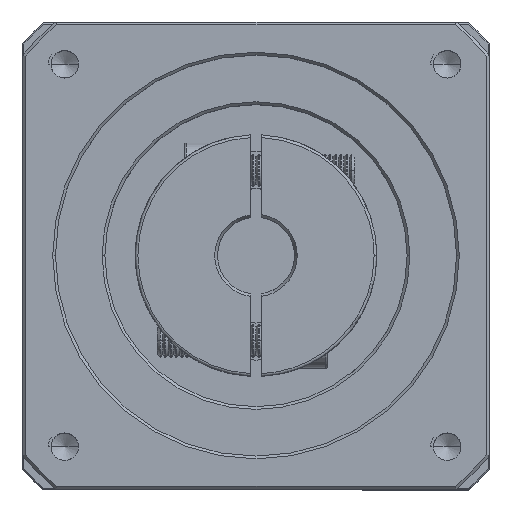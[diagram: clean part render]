
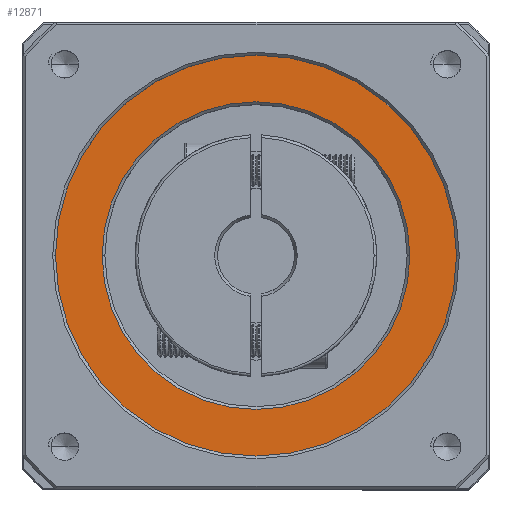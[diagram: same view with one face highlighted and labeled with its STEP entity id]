
A CAD part, top view. The second image highlights one B-rep face of the part: STEP entity #12871.
In plain terms, the highlighted planar face has unit normal (0, 0, 1).
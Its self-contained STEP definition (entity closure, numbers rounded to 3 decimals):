
#365 = DIRECTION ( 'NONE',  ( 0., 0., -1. ) ) ;
#489 = EDGE_CURVE ( 'NONE', #51546, #47815, #106639, .T. ) ;
#842 = VERTEX_POINT ( 'NONE', #104078 ) ;
#4211 = ORIENTED_EDGE ( 'NONE', *, *, #106091, .T. ) ;
#4645 = CIRCLE ( 'NONE', #14451, 36.5 ) ;
#9943 = AXIS2_PLACEMENT_3D ( 'NONE', #39185, #365, #115499 ) ;
#10489 = CARTESIAN_POINT ( 'NONE',  ( -11.569, 50.545, 5.935 ) ) ;
#10643 = CARTESIAN_POINT ( 'NONE',  ( -67.569, 50.545, 5.935 ) ) ;
#10933 = FACE_OUTER_BOUND ( 'NONE', #106952, .T. ) ;
#11692 = DIRECTION ( 'NONE',  ( 1., 0., 0. ) ) ;
#12871 = ADVANCED_FACE ( 'NONE', ( #10933, #102010 ), #102917, .T. ) ;
#13289 = ORIENTED_EDGE ( 'NONE', *, *, #27173, .T. ) ;
#13605 = AXIS2_PLACEMENT_3D ( 'NONE', #58894, #88877, #11692 ) ;
#14451 = AXIS2_PLACEMENT_3D ( 'NONE', #80521, #41786, #23366 ) ;
#23366 = DIRECTION ( 'NONE',  ( 1., 0., 0. ) ) ;
#25373 = DIRECTION ( 'NONE',  ( 1., 0., 0. ) ) ;
#27173 = EDGE_CURVE ( 'NONE', #842, #80309, #34567, .T. ) ;
#34567 = CIRCLE ( 'NONE', #77400, 36.5 ) ;
#38019 = CIRCLE ( 'NONE', #13605, 28. ) ;
#39185 = CARTESIAN_POINT ( 'NONE',  ( -39.569, 50.545, 5.935 ) ) ;
#41786 = DIRECTION ( 'NONE',  ( 0., 0., 1. ) ) ;
#45416 = DIRECTION ( 'NONE',  ( 0., 0., 1. ) ) ;
#46010 = EDGE_LOOP ( 'NONE', ( #94975, #112804 ) ) ;
#47316 = CARTESIAN_POINT ( 'NONE',  ( -39.569, 50.545, 5.935 ) ) ;
#47815 = VERTEX_POINT ( 'NONE', #10643 ) ;
#51024 = DIRECTION ( 'NONE',  ( 1., 0., 0. ) ) ;
#51546 = VERTEX_POINT ( 'NONE', #10489 ) ;
#58894 = CARTESIAN_POINT ( 'NONE',  ( -39.569, 50.545, 5.935 ) ) ;
#77228 = EDGE_CURVE ( 'NONE', #47815, #51546, #38019, .T. ) ;
#77400 = AXIS2_PLACEMENT_3D ( 'NONE', #47316, #106883, #51024 ) ;
#80309 = VERTEX_POINT ( 'NONE', #107421 ) ;
#80521 = CARTESIAN_POINT ( 'NONE',  ( -39.569, 50.545, 5.935 ) ) ;
#88877 = DIRECTION ( 'NONE',  ( 0., 0., -1. ) ) ;
#93786 = CARTESIAN_POINT ( 'NONE',  ( -39.569, 50.545, 5.935 ) ) ;
#94975 = ORIENTED_EDGE ( 'NONE', *, *, #489, .T. ) ;
#97890 = AXIS2_PLACEMENT_3D ( 'NONE', #93786, #45416, #25373 ) ;
#102010 = FACE_BOUND ( 'NONE', #46010, .T. ) ;
#102917 = PLANE ( 'NONE',  #97890 ) ;
#104078 = CARTESIAN_POINT ( 'NONE',  ( -3.069, 50.545, 5.935 ) ) ;
#106091 = EDGE_CURVE ( 'NONE', #80309, #842, #4645, .T. ) ;
#106639 = CIRCLE ( 'NONE', #9943, 28. ) ;
#106883 = DIRECTION ( 'NONE',  ( 0., 0., 1. ) ) ;
#106952 = EDGE_LOOP ( 'NONE', ( #13289, #4211 ) ) ;
#107421 = CARTESIAN_POINT ( 'NONE',  ( -76.069, 50.545, 5.935 ) ) ;
#112804 = ORIENTED_EDGE ( 'NONE', *, *, #77228, .T. ) ;
#115499 = DIRECTION ( 'NONE',  ( 1., 0., 0. ) ) ;
